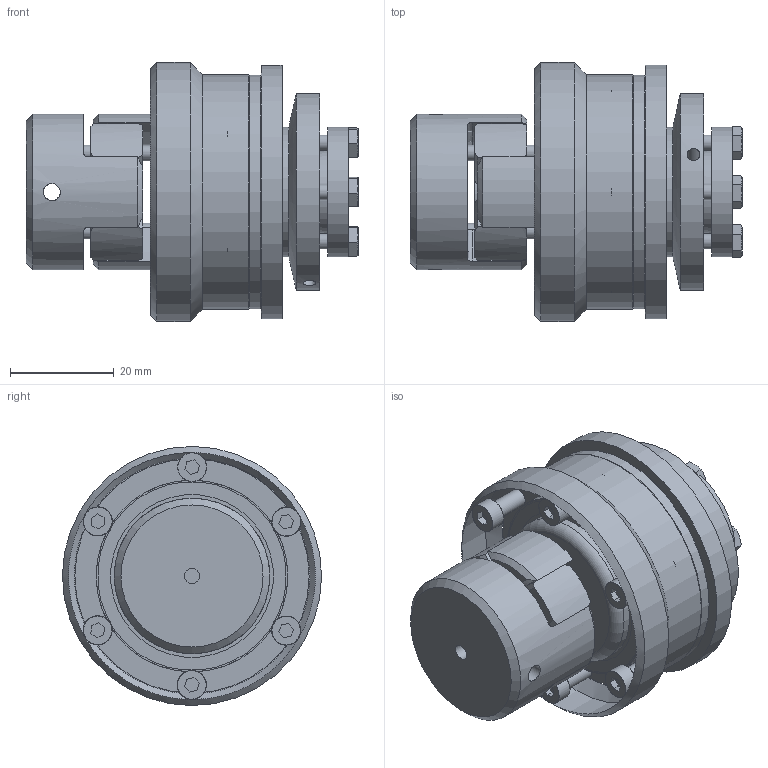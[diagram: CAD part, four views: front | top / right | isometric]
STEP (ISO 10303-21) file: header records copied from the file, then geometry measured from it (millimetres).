
FILE_DESCRIPTION( ( 'Unknown' ), '1' );
FILE_NAME( 'C:/Users/skarpstein/Desktop/Korrigierte 3D Modelle/KBK-E-PI/KBK EPI-14.stp', 'Unknown', ( 'Unknown' ), ( 'Unknown' ), 'PSStep 16.0.42', 'Unknown', ' ' );
FILE_SCHEMA( ( 'AUTOMOTIVE_DESIGN { 1 0 10303 214 1 1 1 1 }' ) );
Length unit declared in the file: millimetre
Products named in the file (30): ball_bearing_-_61904_0_01; ball_bearing_-_61904_0_02; Zylinderschraube DIN 912; ball_bearing_-_61904_0_03; a_20; KBK L-I-10 Grundkörper; Assem1; Konusbuchse KBK 10; Stellring 10; Druckring 10; Assem3; din_en_24017_m3x12; Elastomerflansch EK 10; Flansch L-LL10; Zahnkranz_14_Standard; KBE 1 - 14_Nabe
Assembly tree (37 placements, depth 4):
  Assem1
    KBE 1 - 14_Nabe
    Stellring 10
      Stellring 10
    Druckring 10
      Druckring 10
    a_20
      a_20
    Flansch L-LL10
      Flansch L-LL10
    Elastomerflansch EK 10
      Elastomerflansch EK 10
    Zahnkranz_14_Standard
      Zahnkranz_14_Standard
    KBK L-I-10 Grundkörper
      KBK L-I-10 Grundkörper
    Konusbuchse KBK 10
      Konusbuchse KBK 10
    din_en_24017_m3x12  x4
      din_en_24017_m3x12
    Assem1
      ball_bearing_-_61904_0_01
        ball_bearing_-_61904_0_01
      ball_bearing_-_61904_0_02
        ball_bearing_-_61904_0_02
      ball_bearing_-_61904_0_03
        ball_bearing_-_61904_0_03
    Assem3  x6
      Zylinderschraube DIN 912
        Zylinderschraube DIN 912
Bounding box: 64.05 x 50 x 50 mm (x, y, z)
Volume: 61258.8 mm3; surface area: 40332.8 mm2
Topology: 22 solids, 22 shells, 417 faces, 924 edges, 585 vertices
Faces by surface type: plane 186, cylinder 125, cone 88, torus 18
Full cylindrical faces by diameter (mm): 2 x2, 2.459 x14, 3 x16, 3.1 x4, 3.3 x1, 3.4 x6, 4.57 x4, 5.5 x6, 5.6 x6, 6 x2, 10 x2, 14 x1, 15 x1, 16 x1, 19 x1, 20 x3, 24 x2, 25 x2, 25.6 x2, 29 x1, 29.993 x1, 30 x2, 31.4 x2, 37 x3, 38 x1, 40 x1, 45 x1, 45.2 x1, 49 x1, 50 x1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
Entity records: 10838 total; most frequent: CARTESIAN_POINT 1893, DIRECTION 1434, ORIENTED_EDGE 1030, AXIS2_PLACEMENT_3D 664, EDGE_CURVE 515, EDGE_LOOP 460, VERTEX_POINT 379, FACE_OUTER_BOUND 370
